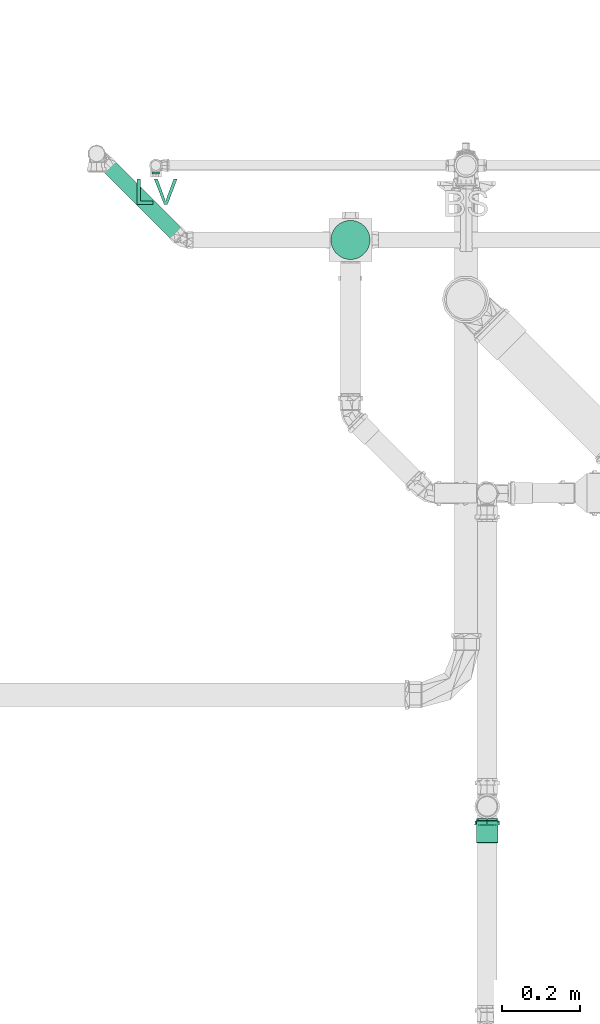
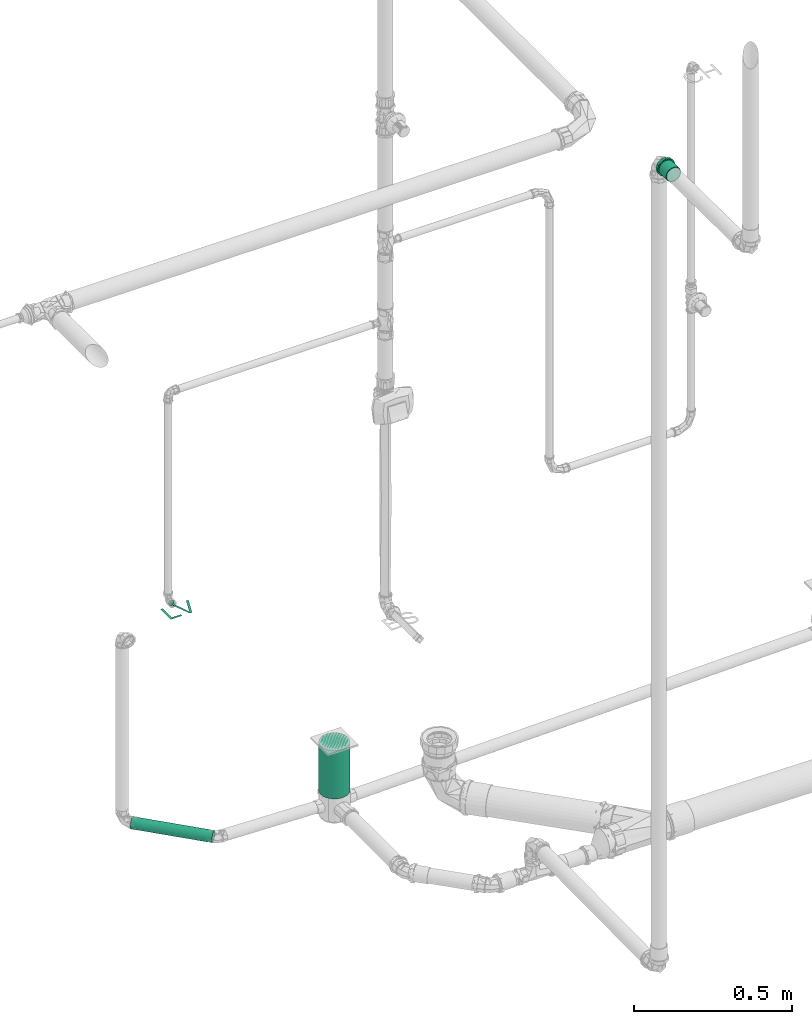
# One storey, part 279 of 589: 2 flow segments, 1 flow fitting, 1 flow terminal.
"""IFC2X3 building model written with IfcOpenShell, lengths in millimetres."""

from ifc_helpers import new_model, entity, si_unit, converted_unit, derived_unit, direction, frame, frame_2d, origin, origin_2d_with_axis, place, context, subcontext, project, spatial, circle, extrude, face_set, faceted_brep, surface_model, source, transform, mapped, material, type_object, type_shapes, element, save


model = new_model("IFC2X3")

# Units and contexts
model_context = context("Model", 3, precision=0.01, world=origin(), true_north=direction((6.123031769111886e-17, 1.0)))
body_context = subcontext(model_context, "Body", "Model", "MODEL_VIEW")
ifc_project = project(units=[si_unit("LENGTHUNIT", "METRE", prefix="MILLI"), si_unit("AREAUNIT", "SQUARE_METRE"), si_unit("VOLUMEUNIT", "CUBIC_METRE"), converted_unit("PLANEANGLEUNIT", "DEGREE", entity("IfcRatioMeasure", 0.017453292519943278), si_unit("PLANEANGLEUNIT", "RADIAN"), dimensions=[0, 0, 0, 0, 0, 0, 0]), si_unit("MASSUNIT", "GRAM", prefix="KILO"), derived_unit("MASSDENSITYUNIT", [(si_unit("MASSUNIT", "GRAM", prefix="KILO"), 1), (si_unit("LENGTHUNIT", "METRE"), -3)]), derived_unit("IONCONCENTRATIONUNIT", [(si_unit("MASSUNIT", "GRAM", prefix="KILO"), 1), (si_unit("LENGTHUNIT", "METRE"), -3)]), derived_unit("MOMENTOFINERTIAUNIT", [(si_unit("LENGTHUNIT", "METRE"), 4)]), si_unit("TIMEUNIT", "SECOND"), si_unit("FREQUENCYUNIT", "HERTZ"), si_unit("THERMODYNAMICTEMPERATUREUNIT", "DEGREE_CELSIUS"), derived_unit("THERMALTRANSMITTANCEUNIT", [(si_unit("MASSUNIT", "GRAM", prefix="KILO"), 1), (si_unit("THERMODYNAMICTEMPERATUREUNIT", "KELVIN"), -1), (si_unit("TIMEUNIT", "SECOND"), -3)]), derived_unit("THERMALCONDUCTANCEUNIT", [(si_unit("MASSUNIT", "GRAM", prefix="KILO"), 1), (si_unit("THERMODYNAMICTEMPERATUREUNIT", "KELVIN"), -1), (si_unit("TIMEUNIT", "SECOND"), -3), (si_unit("LENGTHUNIT", "METRE"), 1)]), derived_unit("VOLUMETRICFLOWRATEUNIT", [(si_unit("LENGTHUNIT", "METRE"), 3), (si_unit("TIMEUNIT", "SECOND"), -1)]), derived_unit("MASSFLOWRATEUNIT", [(si_unit("MASSUNIT", "GRAM", prefix="KILO"), 1), (si_unit("TIMEUNIT", "SECOND"), -1)]), derived_unit("ROTATIONALFREQUENCYUNIT", [(si_unit("TIMEUNIT", "SECOND"), -1)]), si_unit("ELECTRICCURRENTUNIT", "AMPERE"), si_unit("ELECTRICVOLTAGEUNIT", "VOLT"), si_unit("POWERUNIT", "WATT"), si_unit("FORCEUNIT", "NEWTON", prefix="KILO"), si_unit("ILLUMINANCEUNIT", "LUX"), si_unit("LUMINOUSFLUXUNIT", "LUMEN"), si_unit("LUMINOUSINTENSITYUNIT", "CANDELA"), derived_unit("USERDEFINED", [(si_unit("MASSUNIT", "GRAM", prefix="KILO"), -1), (si_unit("LENGTHUNIT", "METRE"), -2), (si_unit("TIMEUNIT", "SECOND"), 3), (si_unit("LUMINOUSFLUXUNIT", "LUMEN"), 1)]), derived_unit("USERDEFINED", [(si_unit("MASSUNIT", "GRAM", prefix="KILO"), 1), (si_unit("TIMEUNIT", "SECOND"), -3), (si_unit("LENGTHUNIT", "METRE"), 3), (si_unit("ELECTRICCURRENTUNIT", "AMPERE"), -2)]), derived_unit("SOUNDPOWERUNIT", [(si_unit("MASSUNIT", "GRAM", prefix="KILO"), 1), (si_unit("TIMEUNIT", "SECOND"), -3), (si_unit("LENGTHUNIT", "METRE"), 2)]), derived_unit("SOUNDPRESSUREUNIT", [(si_unit("MASSUNIT", "GRAM", prefix="KILO"), 1), (si_unit("LENGTHUNIT", "METRE"), -1), (si_unit("TIMEUNIT", "SECOND"), -2)]), derived_unit("LINEARVELOCITYUNIT", [(si_unit("LENGTHUNIT", "METRE"), 1), (si_unit("TIMEUNIT", "SECOND"), -1)]), si_unit("PRESSUREUNIT", "PASCAL"), derived_unit("USERDEFINED", [(si_unit("MASSUNIT", "GRAM", prefix="KILO"), 1), (si_unit("LENGTHUNIT", "METRE"), -2), (si_unit("TIMEUNIT", "SECOND"), -2)]), derived_unit("LINEARFORCEUNIT", [(si_unit("MASSUNIT", "GRAM", prefix="KILO"), 1), (si_unit("TIMEUNIT", "SECOND"), -2)]), derived_unit("PLANARFORCEUNIT", [(si_unit("MASSUNIT", "GRAM", prefix="KILO"), 1), (si_unit("LENGTHUNIT", "METRE"), -1), (si_unit("TIMEUNIT", "SECOND"), -2)]), derived_unit("SPECIFICHEATCAPACITYUNIT", [(si_unit("THERMODYNAMICTEMPERATUREUNIT", "KELVIN"), -1), (si_unit("LENGTHUNIT", "METRE"), 2), (si_unit("TIMEUNIT", "SECOND"), -2)]), derived_unit("HEATINGVALUEUNIT", [(si_unit("LENGTHUNIT", "METRE"), 2), (si_unit("TIMEUNIT", "SECOND"), -2)]), derived_unit("VAPORPERMEABILITYUNIT", [(si_unit("LENGTHUNIT", "METRE"), -1), (si_unit("TIMEUNIT", "SECOND"), 1)]), derived_unit("DYNAMICVISCOSITYUNIT", [(si_unit("MASSUNIT", "GRAM", prefix="KILO"), 1), (si_unit("TIMEUNIT", "SECOND"), -1), (si_unit("LENGTHUNIT", "METRE"), -1)]), derived_unit("THERMALEXPANSIONCOEFFICIENTUNIT", [(si_unit("THERMODYNAMICTEMPERATUREUNIT", "KELVIN"), -1)]), derived_unit("MODULUSOFELASTICITYUNIT", [(si_unit("MASSUNIT", "GRAM", prefix="KILO"), 1), (si_unit("LENGTHUNIT", "METRE"), -1), (si_unit("TIMEUNIT", "SECOND"), -2)]), derived_unit("ISOTHERMALMOISTURECAPACITYUNIT", [(si_unit("LENGTHUNIT", "METRE"), 3), (si_unit("MASSUNIT", "GRAM", prefix="KILO"), -1)]), derived_unit("MOISTUREDIFFUSIVITYUNIT", [(si_unit("TIMEUNIT", "SECOND"), -1), (si_unit("LENGTHUNIT", "METRE"), 2)])], contexts=[model_context])

# Site, building, storey
site_placement = place(None, origin())
site = spatial("IfcSite", under=ifc_project, at=site_placement, Name="Default", CompositionType="ELEMENT")
building_placement = place(site_placement, origin())
building = spatial("IfcBuilding", under=site, at=building_placement, CompositionType="ELEMENT")
storey_placement = place(building_placement, frame((0.0, 0.0, 100.0)))
storey = spatial("IfcBuildingStorey", under=building, at=storey_placement, Name="TÉRREO", CompositionType="ELEMENT", Elevation=100.0)

# Flow segments
pipe_segment_type = type_object("IfcPipeSegmentType", Name="Tipos de tubos:PVC Esgoto Série Normal", PredefinedType="NOTDEFINED")
flow_segment_1_placement = place(storey_placement, origin())
element("IfcFlowSegment", 1, at=flow_segment_1_placement, inside=storey, type_object=pipe_segment_type, Name="Tipos de tubos:PVC Esgoto Série Normal", ObjectType="Tipos de tubos:PVC Esgoto Série Normal", context=body_context, shape_type="SweptSolid", body=[
    extrude(circle(Radius=20.0, at=frame_2d((0.0, -1.691649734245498e-14), x_axis=(1.0, 0.0))), frame((5322.712627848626, 7353.937052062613, -225.54948973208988), z_axis=(-0.7068981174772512, 0.7070394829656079, 0.01975401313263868), x_axis=(-0.70717747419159, -0.7070360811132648, 0.0)), (0.0, 0.0, 1.0), 267.50543766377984),
])
flow_segment_2_placement = place(storey_placement, origin())
element("IfcFlowSegment", 2, at=flow_segment_2_placement, inside=storey, type_object=pipe_segment_type, Name="Tipos de tubos:PVC Esgoto Série Normal", ObjectType="Tipos de tubos:PVC Esgoto Série Normal", context=body_context, shape_type="SweptSolid", body=[
    extrude(circle(Radius=50.0, at=origin_2d_with_axis()), frame((5759.279238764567, 7345.807722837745, -193.2920511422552), z_axis=(-3.0725866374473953e-06, 0.0, 1.0), x_axis=(-1.0, 0.0, -3.0725866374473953e-06)), (0.0, 0.0, 1.0), 186.79205114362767),
])

# Flow terminal
ifc_material_1 = material(Name="<Unnamed>")
distribution_element_type = type_object("IfcDistributionElementType", Name="Hidráulica_Ponto de Utilização_Uso Provável_Rodrigo MEP:Lavatório LV (Peso 0,3) 60cm do Piso", material=ifc_material_1)
shared_shape_1 = source(origin(), body_context, "Body", "SurfaceModel", [
    surface_model("IfcFaceBasedSurfaceModel", [(0.0, 0.0, 11.595272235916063), (40.81037599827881, 0.0, 11.595272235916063), (40.81037599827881, 8.162075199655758, 11.595272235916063), (8.162075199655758, 8.162075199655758, 11.595272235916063), (8.162075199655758, 65.2966015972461, 11.595272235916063), (0.0, 65.2966015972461, 11.595272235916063), (69.281989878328, 0.0, 11.595272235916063), (77.71507148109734, 0.0, 11.595272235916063), (102.59983590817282, 65.2966015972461, 11.595272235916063), (93.86386479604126, 65.2966015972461, 11.595272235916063), (76.4238056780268, 18.253078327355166, 11.595272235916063), (72.94854709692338, 7.651945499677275, 11.595272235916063), (69.42546385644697, 18.253078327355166, 11.595272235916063), (52.03322939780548, 65.2966015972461, 11.595272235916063), (43.29725828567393, 65.2966015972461, 11.595272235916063), (37.95219179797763, 78.06704158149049, 11.595272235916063), (38.292933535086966, 78.06704158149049, 14.18346268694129), (39.291937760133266, 78.06704158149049, 16.595272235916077), (40.88112398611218, 78.06704158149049, 18.666340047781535), (42.95219179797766, 78.06704158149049, 20.255526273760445), (45.36400134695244, 78.06704158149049, 21.254530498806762), (47.952191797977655, 78.06704158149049, 21.59527223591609), (50.54038224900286, 78.06704158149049, 21.254530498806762), (52.95219179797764, 78.06704158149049, 20.255526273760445), (55.023259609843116, 78.06704158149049, 18.666340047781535), (56.61244583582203, 78.06704158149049, 16.595272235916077), (57.61145006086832, 78.06704158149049, 14.18346268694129), (57.95219179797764, 78.06704158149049, 11.595272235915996), (57.6114500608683, 78.06704158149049, 9.007081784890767), (56.612445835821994, 78.06704158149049, 6.595272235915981), (55.02325960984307, 78.06704158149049, 4.524204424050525), (52.95219179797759, 78.06704158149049, 2.9350181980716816), (50.540382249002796, 78.06704158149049, 1.936013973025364), (47.95219179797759, 78.06704158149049, 1.5952722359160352), (45.36400134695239, 78.06704158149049, 1.936013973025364), (42.952191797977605, 78.06704158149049, 2.9350181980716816), (40.88112398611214, 78.06704158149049, 4.524204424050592), (39.29193776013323, 78.06704158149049, 6.595272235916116), (38.292933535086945, 78.06704158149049, 9.007081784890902), (37.95219179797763, 83.06704158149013, 11.595272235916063), (38.292933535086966, 83.06704158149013, 14.18346268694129), (39.291937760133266, 83.06704158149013, 16.595272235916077), (40.88112398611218, 83.06704158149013, 18.666340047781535), (42.95219179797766, 83.06704158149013, 20.255526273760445), (45.36400134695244, 83.06704158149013, 21.254530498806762), (47.952191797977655, 83.06704158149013, 21.59527223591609), (50.54038224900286, 83.06704158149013, 21.254530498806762), (52.95219179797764, 83.06704158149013, 20.255526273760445), (55.023259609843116, 83.06704158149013, 18.666340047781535), (56.61244583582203, 83.06704158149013, 16.595272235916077), (57.61145006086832, 83.06704158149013, 14.18346268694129), (57.95219179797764, 83.06704158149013, 11.595272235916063), (57.6114500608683, 83.06704158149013, 9.007081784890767), (56.612445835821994, 83.06704158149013, 6.595272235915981), (55.02325960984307, 83.06704158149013, 4.524204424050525), (52.95219179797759, 83.06704158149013, 2.9350181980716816), (50.540382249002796, 83.06704158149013, 1.936013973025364), (47.95219179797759, 83.06704158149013, 1.5952722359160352), (45.36400134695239, 83.06704158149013, 1.936013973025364), (42.952191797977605, 83.06704158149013, 2.9350181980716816), (40.88112398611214, 83.06704158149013, 4.524204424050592), (39.29193776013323, 83.06704158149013, 6.595272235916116), (38.292933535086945, 83.06704158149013, 9.007081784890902)], [face_set([[[0, 1, 2, 3, 4, 5]], [[6, 7, 8, 9, 10, 11, 12, 13, 14]]]), face_set([[[15, 16, 17, 18, 19, 20, 21, 22, 23, 24, 25, 26, 27, 28, 29, 30, 31, 32, 33, 34, 35, 36, 37, 38]], [[39, 40, 41, 42, 43, 44, 45, 46, 47, 48, 49, 50, 51, 52, 53, 54, 55, 56, 57, 58, 59, 60, 61, 62]], [[39, 62, 38, 15]], [[62, 61, 37, 38]], [[60, 59, 35, 36]], [[61, 60, 36, 37]], [[59, 58, 34, 35]], [[33, 34, 58, 57]], [[57, 56, 32, 33]], [[56, 55, 31, 32]], [[54, 53, 29, 30]], [[55, 54, 30, 31]], [[53, 52, 28, 29]], [[27, 28, 52, 51]], [[51, 50, 26, 27]], [[50, 49, 25, 26]], [[48, 47, 23, 24]], [[49, 48, 24, 25]], [[47, 46, 22, 23]], [[21, 22, 46, 45]], [[45, 44, 20, 21]], [[44, 43, 19, 20]], [[42, 41, 17, 18]], [[43, 42, 18, 19]], [[41, 40, 16, 17]], [[15, 16, 40, 39]]])]),
])
type_shapes(distribution_element_type, [shared_shape_1])
flow_terminal_placement = place(storey_placement, frame((5214.262454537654, 7436.557711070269, 588.4047277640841)))
element("IfcFlowTerminal", 3, at=flow_terminal_placement, inside=storey, type_object=distribution_element_type, material=ifc_material_1, Name="Hidráulica_Ponto de Utilização_Uso Provável_Rodrigo MEP:Lavatório LV (Peso 0,3) 60cm do Piso", ObjectType="Hidráulica_Ponto de Utilização_Uso Provável_Rodrigo MEP:Lavatório LV (Peso 0,3) 60cm do Piso", context=body_context, shape_type="MappedRepresentation", body=[
    mapped(shared_shape_1, transform((0.0, 0.0, 0.0), scale=1.0)),
])

# Flow fitting
ifc_material_2 = material(Name="PVC Série Normal")
pipe_fitting_type = type_object("IfcPipeFittingType", Name="PVC Esgoto_Luva Simples para Conexão_Rodrigo MEP:Standard", PredefinedType="NOTDEFINED", material=ifc_material_2)
shared_shape_2 = source(origin(), body_context, "Body", "Brep", [
    faceted_brep([(16.599999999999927, 15.900000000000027, -27.53960784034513), (16.599999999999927, 22.485995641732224, -22.485995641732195), (16.599999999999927, 13.599999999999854, -23.555890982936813), (16.599999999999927, 7.039878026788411, -26.273182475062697), (16.599999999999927, 8.2304456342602, -30.71644127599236), (16.599999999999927, 19.233304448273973, -19.233304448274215), (16.599999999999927, 27.539607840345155, -15.899999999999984), (16.599999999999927, 23.55589098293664, -13.600000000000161), (16.599999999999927, 26.273182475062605, -7.03987802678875), (16.599999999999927, 30.716441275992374, -8.230445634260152), (16.599999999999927, 27.2, 0.0), (16.599999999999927, 31.8, 0.0), (16.599999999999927, 26.273182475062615, 7.0398780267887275), (16.599999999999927, 30.71644127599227, 8.23044563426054), (16.599999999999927, 23.555890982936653, 13.60000000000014), (16.599999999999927, 27.539607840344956, 15.900000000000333), (16.599999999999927, 19.233304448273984, 19.2333044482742), (16.599999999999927, 22.485995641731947, 22.48599564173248), (16.599999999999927, 13.599999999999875, 23.555890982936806), (16.599999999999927, 15.899999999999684, 27.53960784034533), (16.599999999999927, 7.039878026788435, 26.27318247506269), (16.599999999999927, 8.230445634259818, 30.716441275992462), (16.599999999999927, 0.0, 27.2), (16.599999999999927, 0.0, 31.8), (16.599999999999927, -7.039878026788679, 26.273182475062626), (16.599999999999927, -8.230445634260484, 30.716441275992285), (16.599999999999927, -13.600000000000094, 23.555890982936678), (16.599999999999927, -15.900000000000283, 27.53960784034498), (16.599999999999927, -19.23330444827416, 19.233304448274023), (16.599999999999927, -22.485995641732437, 22.48599564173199), (16.599999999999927, -23.55589098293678, 13.59999999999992), (16.599999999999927, -27.539607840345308, 15.899999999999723), (16.599999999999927, -30.71644127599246, 8.230445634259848), (16.599999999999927, -26.273182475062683, 7.039878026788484), (16.599999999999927, -31.8, 0.0), (16.599999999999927, -27.2, 0.0), (16.599999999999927, -30.71644127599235, -8.23044563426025), (16.599999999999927, -26.273182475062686, -7.03987802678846), (16.599999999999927, -27.53960784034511, -15.90000000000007), (16.599999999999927, -23.55589098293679, -13.599999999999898), (16.599999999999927, -22.485995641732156, -22.485995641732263), (16.599999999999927, -19.233304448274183, -19.233304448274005), (16.599999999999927, -15.899999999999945, -27.53960784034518), (16.599999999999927, -13.600000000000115, -23.555890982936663), (16.599999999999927, -8.230445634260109, -30.716441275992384), (16.599999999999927, -7.039878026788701, -26.273182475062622), (16.599999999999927, 0.0, -31.8), (16.599999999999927, 0.0, -27.2), (6.500000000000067, -10.708108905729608, 29.429219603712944), (6.500000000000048, -24.359073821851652, 20.44200387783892), (6.500000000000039, -27.120498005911, 15.6595386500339), (6.50000000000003, -29.881922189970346, 10.877073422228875), (6.500000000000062, -15.89769721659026, 27.540937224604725), (6.500000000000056, -20.128385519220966, 23.991470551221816), (6.50000000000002, -30.840961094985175, 5.438536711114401), (6.5000000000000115, -31.8, 0.0), (6.50000000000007, -5.518520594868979, 31.317501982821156), (6.500000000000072, 5.526376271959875, 31.316116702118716), (6.50000000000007, 0.00392783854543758, 31.316809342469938), (6.500000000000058, 20.134403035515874, 23.986420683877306), (6.500000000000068, 10.715490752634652, 29.42653259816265), (6.500000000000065, 15.904605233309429, 27.536948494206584), (6.500000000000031, 29.8846497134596, 10.869577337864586), (6.500000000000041, 27.12442527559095, 15.652735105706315), (6.5000000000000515, 24.364200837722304, 20.435892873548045), (6.5000000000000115, 31.8, 0.0), (6.499999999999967, 24.364200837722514, -20.435892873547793), (6.499999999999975, 27.12442527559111, -15.652735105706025), (6.499999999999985, 29.884649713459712, -10.869577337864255), (6.4999999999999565, 15.904605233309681, -27.53694849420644), (6.499999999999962, 20.134403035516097, -23.986420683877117), (6.499999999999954, 10.715490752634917, -29.42653259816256), (6.499999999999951, 5.526376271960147, -31.31611670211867), (6.499999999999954, -5.518520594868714, -31.317501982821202), (6.499999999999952, 0.003927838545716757, -31.316809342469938), (6.499999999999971, -20.128385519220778, -23.99147055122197), (6.499999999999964, -15.897697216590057, -27.54093722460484), (6.499999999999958, -10.70810890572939, -29.42921960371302), (6.499999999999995, -29.881922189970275, -10.877073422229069), (6.499999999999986, -27.12049800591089, -15.659538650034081), (6.499999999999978, -24.359073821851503, -20.442003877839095), (6.500000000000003, -30.840961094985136, -5.438536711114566), (6.499999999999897, -30.696173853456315, -6.259599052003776), (62.0, 13.600000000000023, -23.55589098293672), (62.0, 19.233304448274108, -19.23330444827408), (62.0, 12.499999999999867, -21.650635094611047), (62.0, 6.470476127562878, -24.14814565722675), (62.0, 7.039878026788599, -26.273182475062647), (62.0, 17.677669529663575, -17.677669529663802), (62.0, 23.55589098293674, -13.599999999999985), (62.0, 21.65063509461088, -12.50000000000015), (62.0, 24.148145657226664, -6.470476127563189), (62.0, 26.27318247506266, -7.039878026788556), (62.0, 25.0, 0.0), (62.0, 27.2, 0.0), (62.0, 24.148145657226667, 6.4704761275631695), (62.0, 26.273182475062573, 7.03987802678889), (62.0, 21.650635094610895, 12.500000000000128), (62.0, 23.555890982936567, 13.600000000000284), (62.0, 17.67766952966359, 17.67766952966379), (62.0, 19.233304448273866, 19.233304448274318), (62.0, 12.499999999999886, 21.650635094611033), (62.0, 13.59999999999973, 23.55589098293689), (62.0, 6.4704761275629, 24.14814565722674), (62.0, 7.039878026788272, 26.273182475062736), (62.0, 0.0, 25.0), (62.0, 0.0, 27.2), (62.0, -6.470476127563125, 24.148145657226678), (62.0, -7.039878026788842, 26.273182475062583), (62.0, -12.500000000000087, 21.650635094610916), (62.0, -13.600000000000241, 23.555890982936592), (62.0, -17.677669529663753, 17.677669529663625), (62.0, -19.233304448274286, 19.2333044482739), (62.0, -21.65063509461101, 12.499999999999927), (62.0, -23.555890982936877, 13.599999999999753), (62.0, -26.27318247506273, 7.039878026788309), (62.0, -24.14814565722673, 6.470476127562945), (62.0, -27.2, 0.0), (62.0, -25.0, 0.0), (62.0, -26.27318247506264, -7.0398780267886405), (62.0, -24.148145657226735, -6.470476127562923), (62.0, -23.5558909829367, -13.600000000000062), (62.0, -21.650635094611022, -12.499999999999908), (62.0, -19.233304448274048, -19.233304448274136), (62.0, -17.67766952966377, -17.677669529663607), (62.0, -13.599999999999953, -23.555890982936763), (62.0, -12.500000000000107, -21.650635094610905), (62.0, -7.039878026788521, -26.27318247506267), (62.0, -6.470476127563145, -24.148145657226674), (62.0, 0.0, -27.2), (62.0, 0.0, -25.0), (0.0, 12.499999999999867, -21.650635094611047), (0.0, 19.233304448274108, -19.23330444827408), (0.0, 13.600000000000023, -23.55589098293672), (0.0, 6.470476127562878, -24.14814565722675), (0.0, 17.677669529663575, -17.677669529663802), (0.0, 23.55589098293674, -13.599999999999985), (0.0, 21.65063509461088, -12.50000000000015), (0.0, 24.148145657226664, -6.470476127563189), (0.0, 26.27318247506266, -7.039878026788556), (0.0, 25.0, 0.0), (0.0, 27.2, 0.0), (0.0, 24.148145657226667, 6.4704761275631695), (0.0, 26.273182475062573, 7.03987802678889), (0.0, 21.650635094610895, 12.500000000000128), (0.0, 23.555890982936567, 13.600000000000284), (0.0, 17.67766952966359, 17.67766952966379), (0.0, 19.233304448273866, 19.233304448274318), (0.0, 12.499999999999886, 21.650635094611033), (0.0, 13.59999999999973, 23.55589098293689), (0.0, 6.4704761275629, 24.14814565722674), (0.0, 7.039878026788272, 26.273182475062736), (0.0, 0.0, 25.0), (0.0, 0.0, 27.2), (0.0, -6.470476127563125, 24.148145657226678), (0.0, -7.039878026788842, 26.273182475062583), (0.0, -12.500000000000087, 21.650635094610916), (0.0, -13.600000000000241, 23.555890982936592), (0.0, -17.677669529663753, 17.677669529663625), (0.0, -19.233304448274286, 19.2333044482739), (0.0, -21.65063509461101, 12.499999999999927), (0.0, -23.555890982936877, 13.599999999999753), (0.0, -26.27318247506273, 7.039878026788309), (0.0, -24.14814565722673, 6.470476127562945), (0.0, -27.2, 0.0), (0.0, -25.0, 0.0), (0.0, -26.27318247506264, -7.0398780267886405), (0.0, -24.148145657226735, -6.470476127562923), (0.0, -23.5558909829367, -13.600000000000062), (0.0, -21.650635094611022, -12.499999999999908), (0.0, -19.233304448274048, -19.233304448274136), (0.0, -17.67766952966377, -17.677669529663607), (0.0, -13.599999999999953, -23.555890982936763), (0.0, -12.500000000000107, -21.650635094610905), (0.0, -7.039878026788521, -26.27318247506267), (0.0, -6.470476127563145, -24.148145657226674), (0.0, 0.0, -27.2), (0.0, 0.0, -25.0), (0.0, 7.039878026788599, -26.273182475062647), (5.300000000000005, -26.37968999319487, 4.651830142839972), (5.299999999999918, -26.25584678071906, 5.354122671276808), (5.300000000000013, -25.559379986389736, 9.303660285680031), (5.300000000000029, -20.835434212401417, 17.48498444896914), (5.300000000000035, -17.216732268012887, 20.521006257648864), (5.300000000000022, -23.19740709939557, 13.394322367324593), (5.3000000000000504, -4.720244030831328, 26.787297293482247), (5.300000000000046, -9.15913717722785, 25.172162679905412), (5.299999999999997, -27.2, 0.0), (5.300000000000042, -13.598030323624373, 23.557028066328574), (5.300000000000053, 9.165451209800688, 25.169864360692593), (5.300000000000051, 13.603939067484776, 23.55361632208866), (5.300000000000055, 4.7269633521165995, 26.786112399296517), (5.300000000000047, 17.221879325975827, 20.516686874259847), (5.300000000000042, 20.839819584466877, 17.479757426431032), (5.3000000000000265, 25.56171296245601, 9.297248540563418), (5.299999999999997, 27.2, 0.0), (5.3000000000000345, 23.20076627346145, 13.388502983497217), (5.300000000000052, 0.003359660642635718, 26.786704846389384), (5.299999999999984, 25.56171296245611, -9.29724854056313), (5.299999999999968, 20.839819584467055, -17.47975742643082), (5.2999999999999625, 17.22187932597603, -20.516686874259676), (5.299999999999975, 23.200766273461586, -13.388502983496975), (5.299999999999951, 4.726963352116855, -26.78611239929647), (5.2999999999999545, 9.165451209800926, -25.169864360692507), (5.299999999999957, 13.603939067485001, -23.553616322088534), (5.29999999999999, -26.379689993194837, -4.651830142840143), (5.299999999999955, -9.159137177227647, -25.17216267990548), (5.299999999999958, -13.5980303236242, -23.55702806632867), (5.299999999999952, -4.720244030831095, -26.787297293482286), (5.299999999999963, -17.216732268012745, -20.52100625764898), (5.299999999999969, -20.83543421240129, -17.484984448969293), (5.299999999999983, -25.559379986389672, -9.303660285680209), (5.299999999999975, -23.197407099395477, -13.394322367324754), (5.299999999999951, 0.003359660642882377, -26.78670484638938), (39.0, -25.0, 0.0), (39.0, 25.0, 0.0)], [[[0, 1, 2]], [[0, 2, 3]], [[3, 4, 0]], [[2, 1, 5]], [[6, 5, 1]], [[7, 5, 6]], [[8, 7, 6]], [[8, 6, 9]], [[8, 9, 10]], [[10, 9, 11]], [[12, 10, 11]], [[12, 11, 13]], [[14, 12, 13]], [[14, 13, 15]], [[16, 14, 15]], [[15, 17, 16]], [[17, 18, 16]], [[17, 19, 18]], [[18, 19, 20]], [[21, 20, 19]], [[20, 21, 22]], [[22, 21, 23]], [[22, 23, 24]], [[24, 23, 25]], [[24, 25, 26]], [[27, 26, 25]], [[27, 28, 26]], [[28, 27, 29]], [[30, 28, 29]], [[31, 30, 29]], [[32, 30, 31]], [[33, 30, 32]], [[33, 32, 34]], [[35, 33, 34]], [[36, 35, 34]], [[36, 37, 35]], [[37, 36, 38]], [[39, 37, 38]], [[39, 38, 40]], [[39, 40, 41]], [[40, 42, 41]], [[41, 42, 43]], [[43, 42, 44]], [[44, 45, 43]], [[46, 45, 44]], [[4, 47, 46]], [[46, 47, 45]], [[4, 3, 47]], [[48, 27, 25]], [[31, 29, 49]], [[31, 49, 50, 51]], [[52, 53, 27]], [[32, 51, 54]], [[54, 55, 34]], [[54, 34, 32]], [[25, 56, 48]], [[49, 29, 53]], [[23, 57, 58, 56]], [[59, 19, 17]], [[27, 53, 29]], [[48, 52, 27]], [[31, 51, 32]], [[57, 23, 21]], [[60, 19, 61]], [[15, 62, 63, 64]], [[19, 60, 21]], [[15, 13, 62]], [[17, 64, 59]], [[57, 21, 60]], [[23, 56, 25]], [[15, 64, 17]], [[13, 65, 62]], [[13, 11, 65]], [[59, 61, 19]], [[65, 11, 9]], [[6, 1, 66]], [[6, 66, 67, 68]], [[69, 70, 0]], [[68, 65, 9]], [[71, 69, 0]], [[71, 0, 4]], [[4, 72, 71]], [[66, 1, 70]], [[46, 73, 74, 72]], [[75, 76, 42]], [[0, 70, 1]], [[75, 42, 40]], [[6, 68, 9]], [[73, 46, 44]], [[77, 42, 76]], [[38, 78, 79, 80]], [[42, 77, 44]], [[38, 36, 78]], [[40, 80, 75]], [[73, 44, 77]], [[46, 72, 4]], [[38, 80, 40]], [[36, 81, 82, 78]], [[55, 81, 34]], [[34, 81, 36]], [[83, 84, 85]], [[83, 85, 86]], [[86, 87, 83]], [[85, 84, 88]], [[89, 88, 84]], [[88, 89, 90]], [[90, 89, 91]], [[92, 91, 89]], [[92, 93, 91]], [[93, 92, 94]], [[95, 93, 94]], [[94, 96, 95]], [[95, 96, 97]], [[98, 97, 96]], [[97, 98, 99]], [[99, 98, 100]], [[101, 99, 100]], [[100, 102, 101]], [[101, 102, 103]], [[104, 103, 102]], [[103, 104, 105]], [[105, 104, 106]], [[105, 106, 107]], [[107, 106, 108]], [[107, 108, 109]], [[110, 109, 108]], [[110, 111, 109]], [[111, 110, 112]], [[112, 113, 111]], [[114, 113, 112]], [[113, 114, 115]], [[115, 116, 113]], [[117, 116, 115]], [[117, 118, 116]], [[119, 118, 117]], [[119, 120, 118]], [[120, 119, 121]], [[121, 122, 120]], [[122, 121, 123]], [[122, 123, 124]], [[123, 125, 124]], [[124, 125, 126]], [[126, 125, 127]], [[127, 128, 126]], [[129, 128, 127]], [[87, 130, 129]], [[129, 130, 128]], [[87, 86, 130]], [[131, 132, 133]], [[134, 131, 133]], [[135, 132, 131]], [[132, 135, 136]], [[137, 136, 135]], [[138, 136, 137]], [[136, 138, 139]], [[138, 140, 139]], [[141, 139, 140]], [[141, 140, 142]], [[142, 143, 141]], [[144, 143, 142]], [[143, 144, 145]], [[146, 145, 144]], [[147, 145, 146]], [[147, 146, 148]], [[148, 149, 147]], [[150, 149, 148]], [[149, 150, 151]], [[152, 151, 150]], [[153, 151, 152]], [[154, 153, 152]], [[155, 153, 154]], [[156, 155, 154]], [[155, 156, 157]], [[156, 158, 157]], [[159, 157, 158]], [[158, 160, 159]], [[159, 160, 161]], [[162, 161, 160]], [[160, 163, 162]], [[162, 163, 164]], [[163, 165, 164]], [[164, 165, 166]], [[165, 167, 166]], [[168, 166, 167]], [[167, 169, 168]], [[170, 168, 169]], [[171, 170, 169]], [[171, 172, 170]], [[173, 172, 171]], [[174, 172, 173]], [[173, 175, 174]], [[174, 175, 176]], [[175, 177, 176]], [[177, 134, 178]], [[176, 177, 178]], [[133, 178, 134]], [[162, 179, 180, 181]], [[159, 182, 183]], [[182, 161, 181, 184]], [[185, 155, 186]], [[161, 162, 181]], [[187, 179, 164]], [[183, 188, 157]], [[183, 157, 159]], [[161, 182, 159]], [[189, 190, 149]], [[189, 149, 151]], [[157, 188, 186]], [[157, 186, 155]], [[153, 155, 185]], [[164, 179, 162]], [[151, 191, 189]], [[147, 192, 193]], [[143, 194, 195]], [[194, 145, 193, 196]], [[143, 195, 141]], [[10, 12, 96, 94]], [[149, 192, 147]], [[153, 185, 197, 191]], [[153, 191, 151]], [[145, 147, 193]], [[190, 192, 149]], [[145, 194, 143]], [[139, 195, 198]], [[132, 199, 200]], [[199, 136, 198, 201]], [[202, 178, 203]], [[136, 139, 198]], [[139, 141, 195]], [[92, 8, 10, 94]], [[133, 203, 178]], [[200, 204, 133]], [[136, 199, 132]], [[205, 164, 166]], [[206, 207, 172]], [[133, 204, 203]], [[206, 172, 174]], [[176, 178, 202]], [[200, 133, 132]], [[174, 208, 206]], [[170, 209, 210]], [[166, 211, 205]], [[211, 168, 210, 212]], [[168, 211, 166]], [[172, 209, 170]], [[176, 202, 213, 208]], [[176, 208, 174]], [[168, 170, 210]], [[207, 209, 172]], [[205, 187, 164]], [[116, 118, 214, 165, 163]], [[156, 109, 111, 158]], [[111, 113, 160, 158]], [[113, 116, 163, 160]], [[107, 109, 156, 154]], [[154, 152, 105, 107]], [[103, 105, 152, 150]], [[103, 150, 148, 101]], [[142, 95, 97, 144]], [[97, 99, 146, 144]], [[99, 101, 148, 146]], [[93, 95, 142, 140, 215]], [[215, 140, 138, 91, 93]], [[135, 131, 85, 88]], [[90, 91, 138, 137]], [[90, 137, 135, 88]], [[86, 85, 131, 134]], [[134, 177, 130, 86]], [[128, 130, 177, 175]], [[128, 175, 173, 126]], [[167, 120, 122, 169]], [[122, 124, 171, 169]], [[124, 126, 173, 171]], [[118, 120, 167, 165, 214]], [[211, 78, 82, 81, 55, 187, 205]], [[79, 78, 211, 212, 210, 80]], [[75, 80, 210, 209, 207, 76]], [[207, 206, 208, 73, 77, 76]], [[213, 202, 72, 74, 73, 208]], [[203, 204, 69, 71, 72, 202]], [[198, 195, 65, 68]], [[199, 201, 198, 68, 67, 66]], [[204, 200, 199, 66, 70, 69]], [[195, 194, 62, 65]], [[197, 185, 56, 58, 57, 191]], [[63, 62, 194, 196, 193, 64]], [[57, 60, 61, 190, 189, 191]], [[193, 192, 190, 61, 59, 64]], [[48, 56, 185, 186, 188, 52]], [[187, 55, 54, 51, 181, 180, 179]], [[182, 184, 181, 51, 50, 49]], [[188, 183, 182, 49, 53, 52]], [[30, 33, 115, 114]], [[117, 115, 33, 35]], [[26, 28, 112, 110]], [[114, 112, 28, 30]], [[24, 26, 110, 108]], [[108, 106, 22, 24]], [[18, 20, 104, 102]], [[100, 16, 18, 102]], [[12, 14, 98, 96]], [[100, 98, 14, 16]], [[104, 20, 22, 106]], [[89, 7, 8, 92]], [[83, 87, 3, 2]], [[7, 89, 84, 5]], [[83, 2, 5, 84]], [[87, 129, 47, 3]], [[43, 45, 127, 125]], [[123, 41, 43, 125]], [[37, 39, 121, 119]], [[123, 121, 39, 41]], [[35, 37, 119, 117]], [[127, 45, 47, 129]]]),
])
type_shapes(pipe_fitting_type, [shared_shape_2])
flow_fitting_placement = place(storey_placement, frame((6108.335906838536, 5868.367382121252, 2992.3093975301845), z_axis=(1.0, 0.0, 0.0), x_axis=(0.0, -0.9999500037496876, 0.009999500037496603)))
element("IfcFlowFitting", 4, at=flow_fitting_placement, inside=storey, type_object=pipe_fitting_type, material=ifc_material_2, Name="PVC Esgoto_Luva Simples para Conexão_Rodrigo MEP:Standard", ObjectType="PVC Esgoto_Luva Simples para Conexão_Rodrigo MEP:Standard", context=body_context, shape_type="MappedRepresentation", body=[
    mapped(shared_shape_2, transform((0.0, 0.0, 0.0), scale=1.0)),
])

save(model, "model.ifc")
